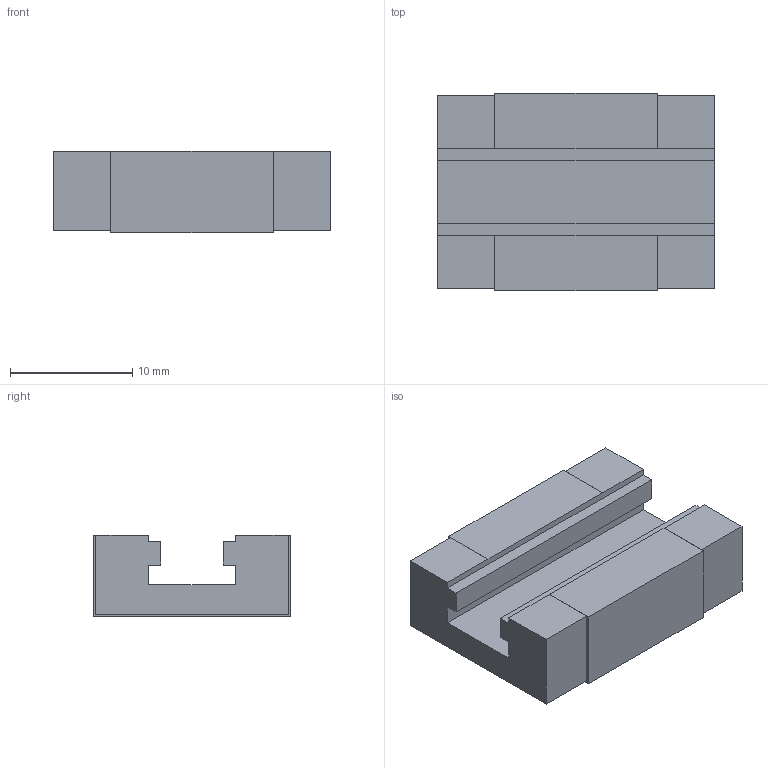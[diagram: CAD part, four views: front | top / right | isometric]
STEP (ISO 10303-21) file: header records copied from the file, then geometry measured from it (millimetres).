
FILE_DESCRIPTION(('Open CASCADE Model'),'2;1');
FILE_NAME('jaw-sliding-bar.step','2026-11-14T14:31:58',('Author'),( 'Open CASCADE'),'Open CASCADE STEP processor 8.0','Open CASCADE 8.0' ,'Unknown');
FILE_SCHEMA(('AP242_MANAGED_MODEL_BASED_3D_ENGINEERING_MIM_LF {1 0 10303 442 1 1 4 }' ));
Length unit declared in the file: millimetre
Products named in the file (1): Jaw Sliding Bar
Bounding box: 22.7 x 16.18 x 6.7 mm (x, y, z)
Volume: 1769.4 mm3; surface area: 1600.6 mm2
Topology: 1 solids, 1 shells, 42 faces, 108 edges, 72 vertices
Faces by surface type: plane 34, cylinder 8
Entity records: 2682 total; most frequent: CARTESIAN_POINT 439, DIRECTION 426, LINE 292, VECTOR 292, ORIENTED_EDGE 216, PCURVE 216, DEFINITIONAL_REPRESENTATION 216, EDGE_CURVE 108
